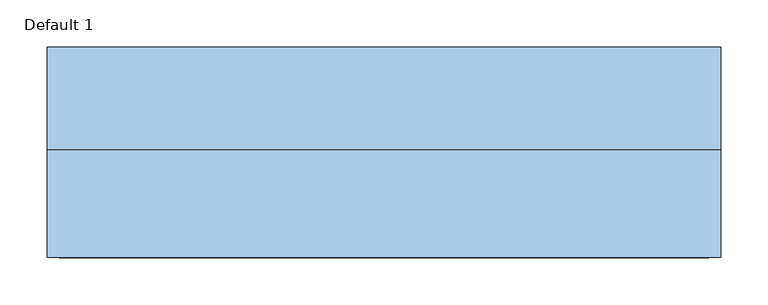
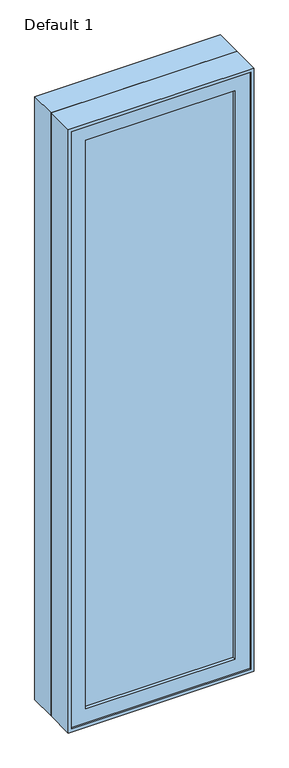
"""IFC4 building model written with IfcOpenShell, lengths in millimetres: window geometry, Planitar-Casement-Single_Left : Default 1."""

from ifc_helpers import new_model, si_unit, frame, origin, place, context, project, spatial, polyline, outline, extrude, faceted_brep, source, transform, mapped, element, save


def default_1_c5782fb5(model_context):
    return source(origin(), model_context, "Body", "SolidModel", [
        extrude(outline(polyline([(285.75, -101.6), (-285.75, -101.6), (-285.75, -95.25), (285.75, -95.25), (285.75, -101.6)])), frame((0.0, 0.0, 984.25), z_axis=(0.0, 0.0, 1.0), x_axis=(1.0, 0.0, 0.0)), (0.0, 0.0, 1.0), 2298.7),
        extrude(outline(polyline([(-285.75, -82.55), (285.75, -82.55), (285.75, -88.9), (-285.75, -88.9), (-285.75, -82.55)])), frame((0.0, 0.0, 984.25), z_axis=(0.0, 0.0, 1.0), x_axis=(1.0, 0.0, 0.0)), (0.0, 0.0, 1.0), 2298.7),
        extrude(outline(polyline([(3340.1, 342.9), (3340.1, -342.9), (927.1, -342.9), (927.1, 342.9), (3340.1, 342.9)]), holes=[polyline([(3282.95, -285.75), (3282.95, 285.75), (984.25, 285.75), (984.25, -285.75), (3282.95, -285.75)])]), frame((0.0, -114.3, 0.0), z_axis=(0.0, 1.0, 0.0), x_axis=(0.0, 0.0, 1.0)), (0.0, 0.0, 1.0), 44.45),
        extrude(outline(polyline([(3352.8, -355.6), (914.4, -355.6), (914.4, 355.6), (3352.8, 355.6), (3352.8, -355.6)]), holes=[polyline([(3333.75, 336.55), (933.45, 336.55), (933.45, -336.55), (3333.75, -336.55), (3333.75, 336.55)])]), frame((0.0, -6.35, 0.0), z_axis=(0.0, 1.0, 0.0), x_axis=(0.0, 0.0, 1.0)), (0.0, 0.0, 1.0), 107.95),
        faceted_brep([(323.85, -69.85, 3321.05), (-323.85, -69.85, 3321.05), (-323.85, -6.35, 3321.05), (323.85, -6.35, 3321.05), (342.9, -120.65, 3340.1), (-342.9, -120.65, 3340.1), (-342.9, -69.85, 3340.1), (342.9, -69.85, 3340.1), (355.6, -6.35, 3352.8), (-355.6, -6.35, 3352.8), (-355.6, -120.65, 3352.8), (355.6, -120.65, 3352.8), (-323.85, -69.85, 946.15), (-323.85, -6.35, 946.15), (-342.9, -120.65, 927.1), (-342.9, -69.85, 927.1), (-355.6, -6.35, 914.4), (-355.6, -120.65, 914.4), (323.85, -69.85, 946.15), (323.85, -6.35, 946.15), (342.9, -120.65, 927.1), (342.9, -69.85, 927.1), (355.6, -6.35, 914.4), (355.6, -120.65, 914.4)], [[[0, 1, 2, 3]], [[4, 5, 6, 7]], [[8, 9, 10, 11]], [[1, 12, 13, 2]], [[5, 14, 15, 6]], [[9, 16, 17, 10]], [[12, 18, 19, 13]], [[14, 20, 21, 15]], [[16, 22, 23, 17]], [[9, 8, 22, 16], [3, 2, 13, 19]], [[18, 0, 3, 19]], [[7, 6, 15, 21], [1, 0, 18, 12]], [[20, 4, 7, 21]], [[22, 8, 11, 23]], [[11, 10, 17, 23], [5, 4, 20, 14]]]),
    ])


if __name__ == "__main__":
    model = new_model("IFC4")
    model_context = context("Model", 3, world=origin())
    ifc_project = project(units=[si_unit("LENGTHUNIT", "METRE", prefix="MILLI")], contexts=[model_context])
    site = spatial("IfcSite", under=ifc_project)
    building = spatial("IfcBuilding", under=site)
    placement = place(None, origin())
    default_1_shape = default_1_c5782fb5(model_context)
    element("IfcWindow", 1, ObjectType="Planitar-Casement-Single_Left : Default 1", at=placement, inside=building, context=model_context, shape_type="MappedRepresentation", body=[
        mapped(default_1_shape, transform((0.0, 0.0, 0.0), x_axis=(1.0, 0.0, 0.0), y_axis=(0.0, 1.0, 0.0), z_axis=(0.0, 0.0, 1.0))),
    ])
    save(model, "model.ifc")
